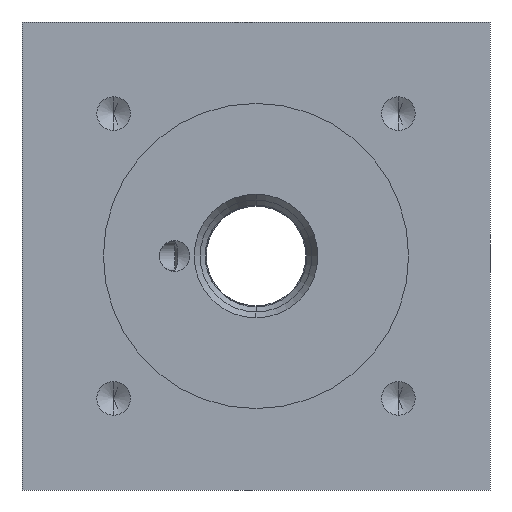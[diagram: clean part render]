
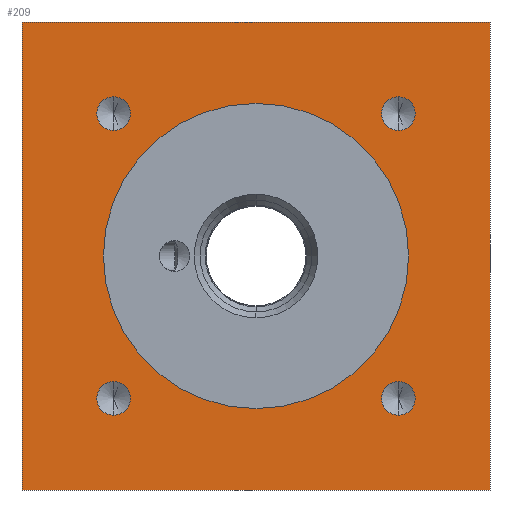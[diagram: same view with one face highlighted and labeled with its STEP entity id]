
A CAD part, left-side view. The second image highlights one B-rep face of the part: STEP entity #209.
In plain terms, the highlighted planar face has unit normal (-1, 0, 0).
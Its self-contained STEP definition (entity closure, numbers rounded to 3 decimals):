
#2 = CARTESIAN_POINT ( 'NONE',  ( 0., -14., 12.35 ) ) ;
#9 = CARTESIAN_POINT ( 'NONE',  ( 0., 0., 0. ) ) ;
#10 = EDGE_LOOP ( 'NONE', ( #22, #287 ) ) ;
#11 = CARTESIAN_POINT ( 'NONE',  ( 0., -23., -23. ) ) ;
#14 = VECTOR ( 'NONE', #1333, 1000. ) ;
#21 = DIRECTION ( 'NONE',  ( -1., 0., 0. ) ) ;
#22 = ORIENTED_EDGE ( 'NONE', *, *, #119, .F. ) ;
#27 = AXIS2_PLACEMENT_3D ( 'NONE', #234, #240, #253 ) ;
#37 = EDGE_CURVE ( 'NONE', #1110, #1001, #215, .T. ) ;
#43 = EDGE_LOOP ( 'NONE', ( #1005, #1654 ) ) ;
#46 = DIRECTION ( 'NONE',  ( -1., 0., 0. ) ) ;
#57 = DIRECTION ( 'NONE',  ( 0., 0., 1. ) ) ;
#58 = CARTESIAN_POINT ( 'NONE',  ( 0., 0., 15. ) ) ;
#64 = CARTESIAN_POINT ( 'NONE',  ( 0., -14., -14. ) ) ;
#119 = EDGE_CURVE ( 'NONE', #1090, #485, #883, .T. ) ;
#120 = FACE_BOUND ( 'NONE', #10, .T. ) ;
#126 = VECTOR ( 'NONE', #1145, 1000. ) ;
#130 = CARTESIAN_POINT ( 'NONE',  ( 0., 23., 23. ) ) ;
#142 = DIRECTION ( 'NONE',  ( 0., -1., 0. ) ) ;
#185 = CIRCLE ( 'NONE', #521, 15. ) ;
#198 = AXIS2_PLACEMENT_3D ( 'NONE', #1240, #1483, #1499 ) ;
#199 = CARTESIAN_POINT ( 'NONE',  ( 0., -23., 23. ) ) ;
#208 = EDGE_CURVE ( 'NONE', #1001, #1110, #452, .T. ) ;
#209 = ADVANCED_FACE ( 'NONE', ( #767, #120, #384, #1434, #1302, #410 ), #1017, .T. ) ;
#215 = CIRCLE ( 'NONE', #1511, 1.65 ) ;
#217 = CIRCLE ( 'NONE', #27, 1.65 ) ;
#233 = CARTESIAN_POINT ( 'NONE',  ( 0., -14., 14. ) ) ;
#234 = CARTESIAN_POINT ( 'NONE',  ( 0., 14., 14. ) ) ;
#240 = DIRECTION ( 'NONE',  ( -1., 0., 0. ) ) ;
#253 = DIRECTION ( 'NONE',  ( 0., 0., 1. ) ) ;
#257 = DIRECTION ( 'NONE',  ( -1., 0., 0. ) ) ;
#287 = ORIENTED_EDGE ( 'NONE', *, *, #405, .F. ) ;
#290 = AXIS2_PLACEMENT_3D ( 'NONE', #1262, #21, #1246 ) ;
#334 = DIRECTION ( 'NONE',  ( 0., 0., 1. ) ) ;
#342 = EDGE_CURVE ( 'NONE', #1055, #1259, #516, .T. ) ;
#347 = EDGE_CURVE ( 'NONE', #631, #1566, #1292, .T. ) ;
#357 = EDGE_CURVE ( 'NONE', #882, #1571, #1309, .T. ) ;
#371 = ORIENTED_EDGE ( 'NONE', *, *, #674, .F. ) ;
#384 = FACE_BOUND ( 'NONE', #1337, .T. ) ;
#398 = DIRECTION ( 'NONE',  ( 0., 0., -1. ) ) ;
#402 = AXIS2_PLACEMENT_3D ( 'NONE', #1592, #1103, #1598 ) ;
#405 = EDGE_CURVE ( 'NONE', #485, #1090, #217, .T. ) ;
#410 = FACE_BOUND ( 'NONE', #1643, .T. ) ;
#414 = CARTESIAN_POINT ( 'NONE',  ( 0., 14., 14. ) ) ;
#415 = CIRCLE ( 'NONE', #1277, 1.65 ) ;
#452 = CIRCLE ( 'NONE', #198, 1.65 ) ;
#463 = CARTESIAN_POINT ( 'NONE',  ( 0., -23., 23. ) ) ;
#478 = EDGE_CURVE ( 'NONE', #686, #1286, #632, .T. ) ;
#483 = ORIENTED_EDGE ( 'NONE', *, *, #936, .F. ) ;
#485 = VERTEX_POINT ( 'NONE', #1471 ) ;
#516 = LINE ( 'NONE', #463, #1353 ) ;
#521 = AXIS2_PLACEMENT_3D ( 'NONE', #9, #46, #57 ) ;
#524 = ORIENTED_EDGE ( 'NONE', *, *, #1186, .F. ) ;
#556 = EDGE_LOOP ( 'NONE', ( #524, #875 ) ) ;
#596 = ORIENTED_EDGE ( 'NONE', *, *, #1317, .F. ) ;
#624 = DIRECTION ( 'NONE',  ( 0., 0., 1. ) ) ;
#631 = VERTEX_POINT ( 'NONE', #1721 ) ;
#632 = LINE ( 'NONE', #1376, #14 ) ;
#649 = VERTEX_POINT ( 'NONE', #58 ) ;
#674 = EDGE_CURVE ( 'NONE', #681, #649, #1118, .T. ) ;
#681 = VERTEX_POINT ( 'NONE', #1223 ) ;
#686 = VERTEX_POINT ( 'NONE', #1255 ) ;
#697 = EDGE_CURVE ( 'NONE', #1571, #882, #415, .T. ) ;
#735 = EDGE_CURVE ( 'NONE', #1259, #686, #1068, .T. ) ;
#767 = FACE_BOUND ( 'NONE', #43, .T. ) ;
#776 = CARTESIAN_POINT ( 'NONE',  ( 0., -23., 23. ) ) ;
#779 = ORIENTED_EDGE ( 'NONE', *, *, #208, .F. ) ;
#810 = CIRCLE ( 'NONE', #1612, 1.65 ) ;
#827 = DIRECTION ( 'NONE',  ( -1., 0., 0. ) ) ;
#836 = ORIENTED_EDGE ( 'NONE', *, *, #478, .F. ) ;
#843 = ORIENTED_EDGE ( 'NONE', *, *, #37, .F. ) ;
#875 = ORIENTED_EDGE ( 'NONE', *, *, #347, .F. ) ;
#880 = DIRECTION ( 'NONE',  ( -1., 0., 0. ) ) ;
#882 = VERTEX_POINT ( 'NONE', #1543 ) ;
#883 = CIRCLE ( 'NONE', #1214, 1.65 ) ;
#936 = EDGE_CURVE ( 'NONE', #649, #681, #185, .T. ) ;
#996 = CARTESIAN_POINT ( 'NONE',  ( 0., -14., -12.35 ) ) ;
#1001 = VERTEX_POINT ( 'NONE', #2 ) ;
#1005 = ORIENTED_EDGE ( 'NONE', *, *, #357, .F. ) ;
#1017 = PLANE ( 'NONE',  #1517 ) ;
#1025 = CARTESIAN_POINT ( 'NONE',  ( 0., -14., -14. ) ) ;
#1039 = CARTESIAN_POINT ( 'NONE',  ( 0., 14., -15.65 ) ) ;
#1055 = VERTEX_POINT ( 'NONE', #776 ) ;
#1068 = LINE ( 'NONE', #1168, #126 ) ;
#1078 = DIRECTION ( 'NONE',  ( -1., 0., 0. ) ) ;
#1081 = DIRECTION ( 'NONE',  ( 0., 0., 1. ) ) ;
#1090 = VERTEX_POINT ( 'NONE', #1291 ) ;
#1093 = DIRECTION ( 'NONE',  ( 0., 0., 1. ) ) ;
#1103 = DIRECTION ( 'NONE',  ( -1., 0., 0. ) ) ;
#1110 = VERTEX_POINT ( 'NONE', #1611 ) ;
#1118 = CIRCLE ( 'NONE', #290, 15. ) ;
#1145 = DIRECTION ( 'NONE',  ( 0., 1., 0. ) ) ;
#1146 = EDGE_LOOP ( 'NONE', ( #1713, #1552, #596, #836 ) ) ;
#1168 = CARTESIAN_POINT ( 'NONE',  ( 0., -23., -23. ) ) ;
#1174 = DIRECTION ( 'NONE',  ( 0., 0., 1. ) ) ;
#1186 = EDGE_CURVE ( 'NONE', #1566, #631, #810, .T. ) ;
#1197 = DIRECTION ( 'NONE',  ( -1., 0., 0. ) ) ;
#1208 = CARTESIAN_POINT ( 'NONE',  ( 0., 14., -14. ) ) ;
#1214 = AXIS2_PLACEMENT_3D ( 'NONE', #414, #827, #1093 ) ;
#1223 = CARTESIAN_POINT ( 'NONE',  ( 0., 0., -15. ) ) ;
#1240 = CARTESIAN_POINT ( 'NONE',  ( 0., -14., 14. ) ) ;
#1246 = DIRECTION ( 'NONE',  ( 0., 0., 1. ) ) ;
#1255 = CARTESIAN_POINT ( 'NONE',  ( 0., 23., -23. ) ) ;
#1259 = VERTEX_POINT ( 'NONE', #11 ) ;
#1262 = CARTESIAN_POINT ( 'NONE',  ( 0., 0., 0. ) ) ;
#1277 = AXIS2_PLACEMENT_3D ( 'NONE', #1208, #1197, #1174 ) ;
#1286 = VERTEX_POINT ( 'NONE', #130 ) ;
#1291 = CARTESIAN_POINT ( 'NONE',  ( 0., 14., 15.65 ) ) ;
#1292 = CIRCLE ( 'NONE', #1559, 1.65 ) ;
#1302 = FACE_OUTER_BOUND ( 'NONE', #1146, .T. ) ;
#1309 = CIRCLE ( 'NONE', #402, 1.65 ) ;
#1310 = DIRECTION ( 'NONE',  ( -1., 0., 0. ) ) ;
#1317 = EDGE_CURVE ( 'NONE', #1286, #1055, #1658, .T. ) ;
#1333 = DIRECTION ( 'NONE',  ( 0., 0., 1. ) ) ;
#1337 = EDGE_LOOP ( 'NONE', ( #843, #779 ) ) ;
#1353 = VECTOR ( 'NONE', #398, 1000. ) ;
#1376 = CARTESIAN_POINT ( 'NONE',  ( 0., 23., 23. ) ) ;
#1386 = CARTESIAN_POINT ( 'NONE',  ( 0., 23., -23. ) ) ;
#1407 = DIRECTION ( 'NONE',  ( 0., 0., 1. ) ) ;
#1408 = VECTOR ( 'NONE', #142, 1000. ) ;
#1434 = FACE_BOUND ( 'NONE', #556, .T. ) ;
#1471 = CARTESIAN_POINT ( 'NONE',  ( 0., 14., 12.35 ) ) ;
#1483 = DIRECTION ( 'NONE',  ( -1., 0., 0. ) ) ;
#1499 = DIRECTION ( 'NONE',  ( 0., 0., 1. ) ) ;
#1511 = AXIS2_PLACEMENT_3D ( 'NONE', #233, #257, #334 ) ;
#1517 = AXIS2_PLACEMENT_3D ( 'NONE', #1386, #1310, #1407 ) ;
#1543 = CARTESIAN_POINT ( 'NONE',  ( 0., 14., -12.35 ) ) ;
#1552 = ORIENTED_EDGE ( 'NONE', *, *, #342, .F. ) ;
#1559 = AXIS2_PLACEMENT_3D ( 'NONE', #64, #880, #624 ) ;
#1566 = VERTEX_POINT ( 'NONE', #996 ) ;
#1571 = VERTEX_POINT ( 'NONE', #1039 ) ;
#1592 = CARTESIAN_POINT ( 'NONE',  ( 0., 14., -14. ) ) ;
#1598 = DIRECTION ( 'NONE',  ( 0., 0., 1. ) ) ;
#1611 = CARTESIAN_POINT ( 'NONE',  ( 0., -14., 15.65 ) ) ;
#1612 = AXIS2_PLACEMENT_3D ( 'NONE', #1025, #1078, #1081 ) ;
#1643 = EDGE_LOOP ( 'NONE', ( #483, #371 ) ) ;
#1654 = ORIENTED_EDGE ( 'NONE', *, *, #697, .F. ) ;
#1658 = LINE ( 'NONE', #199, #1408 ) ;
#1713 = ORIENTED_EDGE ( 'NONE', *, *, #735, .F. ) ;
#1721 = CARTESIAN_POINT ( 'NONE',  ( 0., -14., -15.65 ) ) ;
